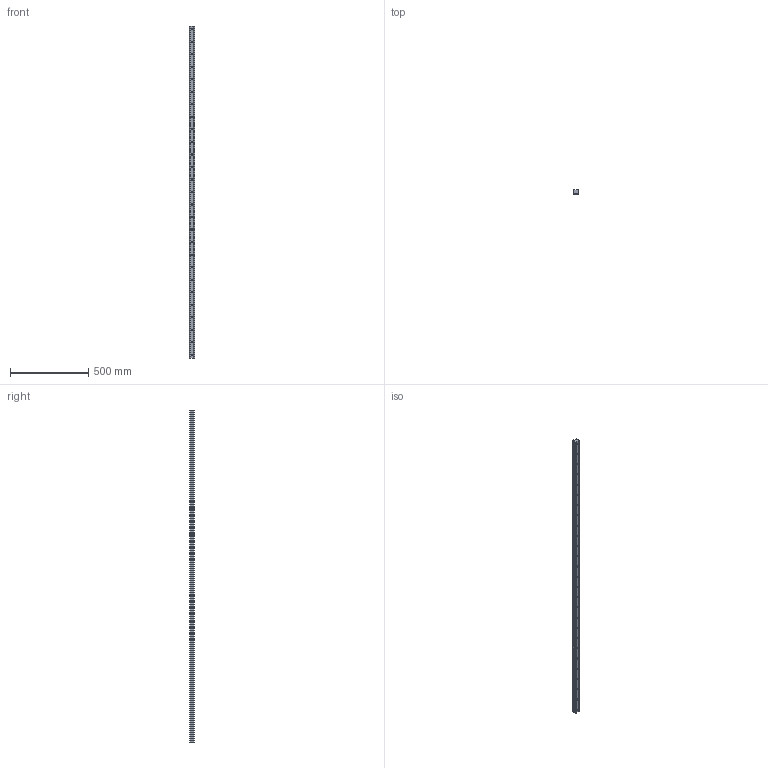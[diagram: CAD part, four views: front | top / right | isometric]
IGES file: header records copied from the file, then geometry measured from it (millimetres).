
Start section: SolidWorks IGES file using analytic representation for surfaces
Global section: file name: C:\Users\IanO\Desktop\Temp File\GENERAL\L1016_v2\L1016.RF35_v2\L1016.RF35_v2_20190612_IGES\L1016.RF35-2120.igs; native system: SolidWorks 2017; preprocessor: SolidWorks 2017; author: IanO; date: 190613.172936; units: millimetre
Bounding box: 34 x 26 x 2120 mm (x, y, z)
Surface area: 276679.6 mm2 (no closed solid volume)
Topology: 0 solids, 0 shells, 215 faces, 3408 edges, 3354 vertices
Faces by surface type: revolution 166, bspline 49
